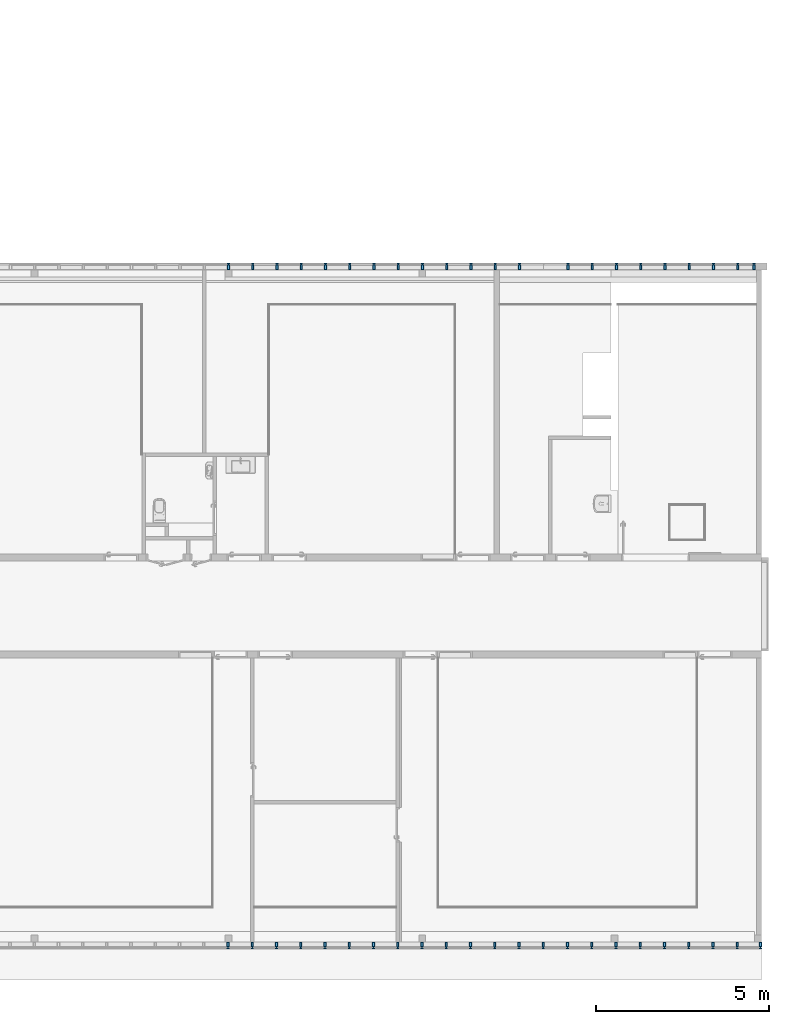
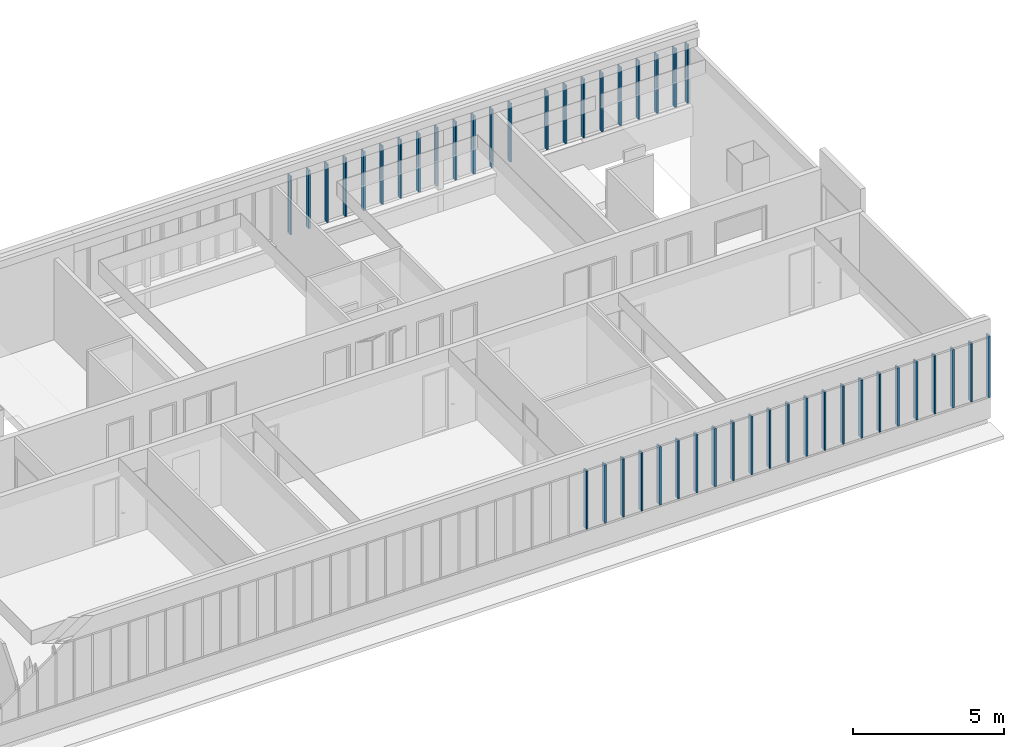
# One storey, part 7 of 87: 45 members, 2 elements without a shape of their own.
"""IFC2X3 building model written with IfcOpenShell, lengths in centimetres."""

from ifc_helpers import new_model, entity, si_unit, converted_unit, derived_unit, direction, frame, origin, place, context, subcontext, project, spatial, polyline, outline, extrude, source, transform, mapped, material, type_object, type_shapes, element, aggregate, save


model = new_model("IFC2X3")

# Units and contexts
model_context = context("Model", 3, precision=0.001, world=origin(), true_north=direction((6.12303176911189e-17, 1.0)))
body_context = subcontext(model_context, "Body", "Model", "MODEL_VIEW")
ifc_project = project(units=[si_unit("LENGTHUNIT", "METRE", prefix="CENTI"), si_unit("AREAUNIT", "SQUARE_METRE"), si_unit("VOLUMEUNIT", "CUBIC_METRE"), converted_unit("PLANEANGLEUNIT", "DEGREE", entity("IfcRatioMeasure", 0.0174532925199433), si_unit("PLANEANGLEUNIT", "RADIAN"), dimensions=[0, 0, 0, 0, 0, 0, 0]), si_unit("MASSUNIT", "GRAM", prefix="KILO"), derived_unit("MASSDENSITYUNIT", [(si_unit("MASSUNIT", "GRAM", prefix="KILO"), 1), (si_unit("LENGTHUNIT", "METRE"), -3)]), si_unit("TIMEUNIT", "SECOND"), si_unit("FREQUENCYUNIT", "HERTZ"), si_unit("THERMODYNAMICTEMPERATUREUNIT", "DEGREE_CELSIUS"), derived_unit("THERMALTRANSMITTANCEUNIT", [(si_unit("MASSUNIT", "GRAM", prefix="KILO"), 1), (si_unit("THERMODYNAMICTEMPERATUREUNIT", "KELVIN"), -1), (si_unit("TIMEUNIT", "SECOND"), -3)]), derived_unit("VOLUMETRICFLOWRATEUNIT", [(si_unit("LENGTHUNIT", "METRE"), 3), (si_unit("TIMEUNIT", "SECOND"), -1)]), si_unit("ELECTRICCURRENTUNIT", "AMPERE"), si_unit("ELECTRICVOLTAGEUNIT", "VOLT"), si_unit("POWERUNIT", "WATT"), si_unit("FORCEUNIT", "NEWTON", prefix="KILO"), si_unit("ILLUMINANCEUNIT", "LUX"), si_unit("LUMINOUSFLUXUNIT", "LUMEN"), si_unit("LUMINOUSINTENSITYUNIT", "CANDELA"), derived_unit("USERDEFINED", [(si_unit("MASSUNIT", "GRAM", prefix="KILO"), -1), (si_unit("LENGTHUNIT", "METRE"), -2), (si_unit("TIMEUNIT", "SECOND"), 3), (si_unit("LUMINOUSFLUXUNIT", "LUMEN"), 1)]), derived_unit("LINEARVELOCITYUNIT", [(si_unit("LENGTHUNIT", "METRE"), 1), (si_unit("TIMEUNIT", "SECOND"), -1)]), si_unit("PRESSUREUNIT", "PASCAL"), derived_unit("USERDEFINED", [(si_unit("LENGTHUNIT", "METRE"), -2), (si_unit("MASSUNIT", "GRAM", prefix="KILO"), 1), (si_unit("TIMEUNIT", "SECOND"), -2)])], contexts=[model_context])

# Site, building, storey
site_placement = place(None, frame((-2781.94577612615, 7442.24238424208, 0.0)))
site = spatial("IfcSite", under=ifc_project, at=site_placement, Name="Default", CompositionType="ELEMENT")
building_placement = place(site_placement, origin())
building = spatial("IfcBuilding", under=site, at=building_placement, CompositionType="ELEMENT")
storey_placement = place(building_placement, frame((0.0, 0.0, 774.0)))
storey = spatial("IfcBuildingStorey", under=building, at=storey_placement, Name="TR - N02 - ARCH", CompositionType="ELEMENT", Elevation=774.0)

# Curtain wall, members
curtain_wall_type = type_object("IfcCurtainWallType", Name="Mur-rideau:07 - mur rideau trame 70cm", PredefinedType="NOTDEFINED")
curtain_wall_1_placement = place(storey_placement, frame((0.0, 0.0, -774.0)))
curtain_wall_1 = element("IfcCurtainWall", 1, at=curtain_wall_1_placement, inside=storey, type_object=curtain_wall_type, Name="Mur-rideau:07 - mur rideau trame 70cm", ObjectType="Mur-rideau:07 - mur rideau trame 70cm")
ifc_material = material(Name="Aluminium")
member_type_1 = type_object("IfcMemberType", Name="150 x 25mm Détails", PredefinedType="MEMBER")
shared_shape_1 = source(origin(), body_context, "Body", "SweptSolid", [
    extrude(outline(polyline([(-5.66666666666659, -3.24999999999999), (-3.66666666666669, -3.24999999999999), (-3.66666666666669, -0.86874999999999), (-0.166666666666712, -0.86874999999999), (-0.166666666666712, -3.25000000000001), (13.3333333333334, -3.25000000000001), (13.3333333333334, 3.24999999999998), (-0.166666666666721, 3.24999999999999), (-0.166666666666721, 0.868749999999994), (-3.66666666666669, 0.868749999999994), (-3.66666666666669, 3.25), (-5.66666666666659, 3.25), (-5.66666666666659, -3.24999999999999)])), frame((0.0, -1.96666666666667, -236.0), z_axis=(0.0, 0.0, 1.0), x_axis=(0.0, -1.0, 0.0)), (0.0, 0.0, 1.0), 236.0),
])
type_shapes(member_type_1, [shared_shape_1])
member_1_placement = place(storey_placement, frame((-1950.749882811, -3046.51349958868, 90.0), z_axis=(0.0, 0.0, -1.0), x_axis=(1.0, 0.0, 0.0)))
member_1 = element("IfcMember", 2, at=member_1_placement, type_object=member_type_1, material=ifc_material, Name="Meneau rectangulaire:150 x 25mm Détails", ObjectType="Meneau rectangulaire:150 x 25mm Détails", context=body_context, shape_type="MappedRepresentation", body=[
    mapped(shared_shape_1, transform((0.0, 0.0, 0.0), scale=1.0)),
])
member_2_placement = place(storey_placement, frame((-1880.749882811, -3046.51349958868, 90.0), z_axis=(0.0, 0.0, -1.0), x_axis=(1.0, 0.0, 0.0)))
member_2 = element("IfcMember", 3, at=member_2_placement, type_object=member_type_1, material=ifc_material, Name="Meneau rectangulaire:150 x 25mm Détails", ObjectType="Meneau rectangulaire:150 x 25mm Détails", context=body_context, shape_type="MappedRepresentation", body=[
    mapped(shared_shape_1, transform((0.0, 0.0, 0.0), scale=1.0)),
])
member_3_placement = place(storey_placement, frame((-1810.749882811, -3046.51349958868, 90.0), z_axis=(0.0, 0.0, -1.0), x_axis=(1.0, 0.0, 0.0)))
member_3 = element("IfcMember", 4, at=member_3_placement, type_object=member_type_1, material=ifc_material, Name="Meneau rectangulaire:150 x 25mm Détails", ObjectType="Meneau rectangulaire:150 x 25mm Détails", context=body_context, shape_type="MappedRepresentation", body=[
    mapped(shared_shape_1, transform((0.0, 0.0, 0.0), scale=1.0)),
])
member_4_placement = place(storey_placement, frame((-1740.749882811, -3046.51349958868, 90.0), z_axis=(0.0, 0.0, -1.0), x_axis=(1.0, 0.0, 0.0)))
member_4 = element("IfcMember", 5, at=member_4_placement, type_object=member_type_1, material=ifc_material, Name="Meneau rectangulaire:150 x 25mm Détails", ObjectType="Meneau rectangulaire:150 x 25mm Détails", context=body_context, shape_type="MappedRepresentation", body=[
    mapped(shared_shape_1, transform((0.0, 0.0, 0.0), scale=1.0)),
])
member_5_placement = place(storey_placement, frame((-1670.749882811, -3046.51349958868, 90.0), z_axis=(0.0, 0.0, -1.0), x_axis=(1.0, 0.0, 0.0)))
member_5 = element("IfcMember", 6, at=member_5_placement, type_object=member_type_1, material=ifc_material, Name="Meneau rectangulaire:150 x 25mm Détails", ObjectType="Meneau rectangulaire:150 x 25mm Détails", context=body_context, shape_type="MappedRepresentation", body=[
    mapped(shared_shape_1, transform((0.0, 0.0, 0.0), scale=1.0)),
])
member_6_placement = place(storey_placement, frame((-1600.749882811, -3046.51349958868, 90.0), z_axis=(0.0, 0.0, -1.0), x_axis=(1.0, 0.0, 0.0)))
member_6 = element("IfcMember", 7, at=member_6_placement, type_object=member_type_1, material=ifc_material, Name="Meneau rectangulaire:150 x 25mm Détails", ObjectType="Meneau rectangulaire:150 x 25mm Détails", context=body_context, shape_type="MappedRepresentation", body=[
    mapped(shared_shape_1, transform((0.0, 0.0, 0.0), scale=1.0)),
])
member_7_placement = place(storey_placement, frame((-1530.749882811, -3046.51349958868, 90.0), z_axis=(0.0, 0.0, -1.0), x_axis=(1.0, 0.0, 0.0)))
member_7 = element("IfcMember", 8, at=member_7_placement, type_object=member_type_1, material=ifc_material, Name="Meneau rectangulaire:150 x 25mm Détails", ObjectType="Meneau rectangulaire:150 x 25mm Détails", context=body_context, shape_type="MappedRepresentation", body=[
    mapped(shared_shape_1, transform((0.0, 0.0, 0.0), scale=1.0)),
])
member_8_placement = place(storey_placement, frame((-1460.749882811, -3046.51349958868, 90.0), z_axis=(0.0, 0.0, -1.0), x_axis=(1.0, 0.0, 0.0)))
member_8 = element("IfcMember", 9, at=member_8_placement, type_object=member_type_1, material=ifc_material, Name="Meneau rectangulaire:150 x 25mm Détails", ObjectType="Meneau rectangulaire:150 x 25mm Détails", context=body_context, shape_type="MappedRepresentation", body=[
    mapped(shared_shape_1, transform((0.0, 0.0, 0.0), scale=1.0)),
])
member_9_placement = place(storey_placement, frame((-1390.749882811, -3046.51349958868, 90.0), z_axis=(0.0, 0.0, -1.0), x_axis=(1.0, 0.0, 0.0)))
member_9 = element("IfcMember", 10, at=member_9_placement, type_object=member_type_1, material=ifc_material, Name="Meneau rectangulaire:150 x 25mm Détails", ObjectType="Meneau rectangulaire:150 x 25mm Détails", context=body_context, shape_type="MappedRepresentation", body=[
    mapped(shared_shape_1, transform((0.0, 0.0, 0.0), scale=1.0)),
])
member_10_placement = place(storey_placement, frame((-1320.749882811, -3046.51349958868, 90.0), z_axis=(0.0, 0.0, -1.0), x_axis=(1.0, 0.0, 0.0)))
member_10 = element("IfcMember", 11, at=member_10_placement, type_object=member_type_1, material=ifc_material, Name="Meneau rectangulaire:150 x 25mm Détails", ObjectType="Meneau rectangulaire:150 x 25mm Détails", context=body_context, shape_type="MappedRepresentation", body=[
    mapped(shared_shape_1, transform((0.0, 0.0, 0.0), scale=1.0)),
])
member_11_placement = place(storey_placement, frame((-1250.749882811, -3046.51349958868, 90.0), z_axis=(0.0, 0.0, -1.0), x_axis=(1.0, 0.0, 0.0)))
member_11 = element("IfcMember", 12, at=member_11_placement, type_object=member_type_1, material=ifc_material, Name="Meneau rectangulaire:150 x 25mm Détails", ObjectType="Meneau rectangulaire:150 x 25mm Détails", context=body_context, shape_type="MappedRepresentation", body=[
    mapped(shared_shape_1, transform((0.0, 0.0, 0.0), scale=1.0)),
])
member_12_placement = place(storey_placement, frame((-1180.749882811, -3046.51349958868, 90.0), z_axis=(0.0, 0.0, -1.0), x_axis=(1.0, 0.0, 0.0)))
member_12 = element("IfcMember", 13, at=member_12_placement, type_object=member_type_1, material=ifc_material, Name="Meneau rectangulaire:150 x 25mm Détails", ObjectType="Meneau rectangulaire:150 x 25mm Détails", context=body_context, shape_type="MappedRepresentation", body=[
    mapped(shared_shape_1, transform((0.0, 0.0, 0.0), scale=1.0)),
])
member_13_placement = place(storey_placement, frame((-1110.749882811, -3046.51349958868, 90.0), z_axis=(0.0, 0.0, -1.0), x_axis=(1.0, 0.0, 0.0)))
member_13 = element("IfcMember", 14, at=member_13_placement, type_object=member_type_1, material=ifc_material, Name="Meneau rectangulaire:150 x 25mm Détails", ObjectType="Meneau rectangulaire:150 x 25mm Détails", context=body_context, shape_type="MappedRepresentation", body=[
    mapped(shared_shape_1, transform((0.0, 0.0, 0.0), scale=1.0)),
])
member_14_placement = place(storey_placement, frame((-1040.749882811, -3046.51349958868, 90.0), z_axis=(0.0, 0.0, -1.0), x_axis=(1.0, 0.0, 0.0)))
member_14 = element("IfcMember", 15, at=member_14_placement, type_object=member_type_1, material=ifc_material, Name="Meneau rectangulaire:150 x 25mm Détails", ObjectType="Meneau rectangulaire:150 x 25mm Détails", context=body_context, shape_type="MappedRepresentation", body=[
    mapped(shared_shape_1, transform((0.0, 0.0, 0.0), scale=1.0)),
])
member_15_placement = place(storey_placement, frame((-970.749882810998, -3046.51349958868, 90.0), z_axis=(0.0, 0.0, -1.0), x_axis=(1.0, 0.0, 0.0)))
member_15 = element("IfcMember", 16, at=member_15_placement, type_object=member_type_1, material=ifc_material, Name="Meneau rectangulaire:150 x 25mm Détails", ObjectType="Meneau rectangulaire:150 x 25mm Détails", context=body_context, shape_type="MappedRepresentation", body=[
    mapped(shared_shape_1, transform((0.0, 0.0, 0.0), scale=1.0)),
])
member_16_placement = place(storey_placement, frame((-900.749882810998, -3046.51349958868, 90.0), z_axis=(0.0, 0.0, -1.0), x_axis=(1.0, 0.0, 0.0)))
member_16 = element("IfcMember", 17, at=member_16_placement, type_object=member_type_1, material=ifc_material, Name="Meneau rectangulaire:150 x 25mm Détails", ObjectType="Meneau rectangulaire:150 x 25mm Détails", context=body_context, shape_type="MappedRepresentation", body=[
    mapped(shared_shape_1, transform((0.0, 0.0, 0.0), scale=1.0)),
])
member_17_placement = place(storey_placement, frame((-830.749882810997, -3046.51349958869, 90.0), z_axis=(0.0, 0.0, -1.0), x_axis=(1.0, 0.0, 0.0)))
member_17 = element("IfcMember", 18, at=member_17_placement, type_object=member_type_1, material=ifc_material, Name="Meneau rectangulaire:150 x 25mm Détails", ObjectType="Meneau rectangulaire:150 x 25mm Détails", context=body_context, shape_type="MappedRepresentation", body=[
    mapped(shared_shape_1, transform((0.0, 0.0, 0.0), scale=1.0)),
])
member_18_placement = place(storey_placement, frame((-760.749882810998, -3046.51349958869, 90.0), z_axis=(0.0, 0.0, -1.0), x_axis=(1.0, 0.0, 0.0)))
member_18 = element("IfcMember", 19, at=member_18_placement, type_object=member_type_1, material=ifc_material, Name="Meneau rectangulaire:150 x 25mm Détails", ObjectType="Meneau rectangulaire:150 x 25mm Détails", context=body_context, shape_type="MappedRepresentation", body=[
    mapped(shared_shape_1, transform((0.0, 0.0, 0.0), scale=1.0)),
])
member_19_placement = place(storey_placement, frame((-690.749882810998, -3046.51349958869, 90.0), z_axis=(0.0, 0.0, -1.0), x_axis=(1.0, 0.0, 0.0)))
member_19 = element("IfcMember", 20, at=member_19_placement, type_object=member_type_1, material=ifc_material, Name="Meneau rectangulaire:150 x 25mm Détails", ObjectType="Meneau rectangulaire:150 x 25mm Détails", context=body_context, shape_type="MappedRepresentation", body=[
    mapped(shared_shape_1, transform((0.0, 0.0, 0.0), scale=1.0)),
])
member_20_placement = place(storey_placement, frame((-620.749882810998, -3046.51349958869, 90.0), z_axis=(0.0, 0.0, -1.0), x_axis=(1.0, 0.0, 0.0)))
member_20 = element("IfcMember", 21, at=member_20_placement, type_object=member_type_1, material=ifc_material, Name="Meneau rectangulaire:150 x 25mm Détails", ObjectType="Meneau rectangulaire:150 x 25mm Détails", context=body_context, shape_type="MappedRepresentation", body=[
    mapped(shared_shape_1, transform((0.0, 0.0, 0.0), scale=1.0)),
])
member_21_placement = place(storey_placement, frame((-550.749882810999, -3046.51349958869, 90.0), z_axis=(0.0, 0.0, -1.0), x_axis=(1.0, 0.0, 0.0)))
member_21 = element("IfcMember", 22, at=member_21_placement, type_object=member_type_1, material=ifc_material, Name="Meneau rectangulaire:150 x 25mm Détails", ObjectType="Meneau rectangulaire:150 x 25mm Détails", context=body_context, shape_type="MappedRepresentation", body=[
    mapped(shared_shape_1, transform((0.0, 0.0, 0.0), scale=1.0)),
])
member_22_placement = place(storey_placement, frame((-480.749882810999, -3046.51349958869, 90.0), z_axis=(0.0, 0.0, -1.0), x_axis=(1.0, 0.0, 0.0)))
member_22 = element("IfcMember", 23, at=member_22_placement, type_object=member_type_1, material=ifc_material, Name="Meneau rectangulaire:150 x 25mm Détails", ObjectType="Meneau rectangulaire:150 x 25mm Détails", context=body_context, shape_type="MappedRepresentation", body=[
    mapped(shared_shape_1, transform((0.0, 0.0, 0.0), scale=1.0)),
])
member_type_2 = type_object("IfcMemberType", Name="150 x 25mm Détails", PredefinedType="MEMBER")
shared_shape_2 = source(origin(), body_context, "Body", "SweptSolid", [
    extrude(outline(polyline([(-5.6666666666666, -3.24999999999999), (-3.66666666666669, -3.24999999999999), (-3.66666666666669, -0.868749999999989), (-0.166666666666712, -0.868749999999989), (-0.166666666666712, -3.25000000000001), (13.3333333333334, -3.25000000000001), (13.3333333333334, 3.24999999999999), (-0.16666666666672, 3.24999999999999), (-0.16666666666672, 0.868749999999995), (-3.66666666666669, 0.868749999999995), (-3.66666666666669, 3.25), (-5.6666666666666, 3.25), (-5.6666666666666, -3.24999999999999)])), frame((-3.24999999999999, -1.96666666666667, -249.0), z_axis=(0.0, 0.0, 1.0), x_axis=(0.0, -1.0, 0.0)), (0.0, 0.0, 1.0), 248.999999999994),
])
type_shapes(member_type_2, [shared_shape_2])
member_23_placement = place(storey_placement, frame((-409.999882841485, -3046.51349958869, 83.5000000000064), z_axis=(0.0, 0.0, -1.0), x_axis=(1.0, 0.0, 0.0)))
member_23 = element("IfcMember", 24, at=member_23_placement, type_object=member_type_2, material=ifc_material, Name="Meneau rectangulaire:150 x 25mm Détails", ObjectType="Meneau rectangulaire:150 x 25mm Détails", context=body_context, shape_type="MappedRepresentation", body=[
    mapped(shared_shape_2, transform((0.0, 0.0, 0.0), scale=1.0)),
])
aggregate(curtain_wall_1, [member_23, member_1, member_2, member_3, member_4, member_5, member_6, member_7, member_8, member_9, member_10, member_11, member_12, member_13, member_14, member_15, member_16, member_17, member_18, member_19, member_20, member_21, member_22])

curtain_wall_2_placement = place(storey_placement, frame((0.0, 0.0, -774.0)))
curtain_wall_2 = element("IfcCurtainWall", 25, at=curtain_wall_2_placement, inside=storey, type_object=curtain_wall_type, Name="Mur-rideau:07 - mur rideau trame 70cm", ObjectType="Mur-rideau:07 - mur rideau trame 70cm")
member_type_3 = type_object("IfcMemberType", Name="150 x 25mm Détails", PredefinedType="MEMBER")
shared_shape_3 = source(origin(), body_context, "Body", "SweptSolid", [
    extrude(outline(polyline([(-13.3333333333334, -3.25000000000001), (0.166666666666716, -3.25000000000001), (0.166666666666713, -0.86874999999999), (3.66666666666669, -0.86874999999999), (3.66666666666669, -3.24999999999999), (5.66666666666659, -3.24999999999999), (5.66666666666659, 3.25), (3.66666666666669, 3.25), (3.66666666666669, 0.868749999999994), (0.166666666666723, 0.868749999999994), (0.166666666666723, 3.25000000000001), (-13.3333333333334, 3.24999999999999), (-13.3333333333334, -3.25000000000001)])), frame((-3.24999999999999, 1.96666666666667, -236.0), z_axis=(0.0, 0.0, 1.0), x_axis=(0.0, -1.0, 0.0)), (0.0, 0.0, 1.0), 236.0),
])
type_shapes(member_type_3, [shared_shape_3])
member_24_placement = place(storey_placement, frame((-428.924882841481, -1073.79999990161, 90.0), z_axis=(0.0, 0.0, -1.0), x_axis=(1.0, 0.0, 0.0)))
member_24 = element("IfcMember", 26, at=member_24_placement, type_object=member_type_3, material=ifc_material, Name="Meneau rectangulaire:150 x 25mm Détails", ObjectType="Meneau rectangulaire:150 x 25mm Détails", context=body_context, shape_type="MappedRepresentation", body=[
    mapped(shared_shape_3, transform((0.0, 0.0, 0.0), scale=1.0)),
])
member_type_4 = type_object("IfcMemberType", Name="150 x 25mm Détails", PredefinedType="MEMBER")
shared_shape_4 = source(origin(), body_context, "Body", "SweptSolid", [
    extrude(outline(polyline([(-13.3333333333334, -3.25000000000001), (0.166666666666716, -3.25000000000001), (0.166666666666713, -0.86874999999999), (3.66666666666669, -0.86874999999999), (3.66666666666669, -3.24999999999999), (5.66666666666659, -3.24999999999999), (5.66666666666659, 3.25), (3.66666666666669, 3.25), (3.66666666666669, 0.868749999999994), (0.166666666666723, 0.868749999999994), (0.166666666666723, 3.25000000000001), (-13.3333333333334, 3.24999999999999), (-13.3333333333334, -3.25000000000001)])), frame((0.0, 1.96666666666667, -236.0), z_axis=(0.0, 0.0, 1.0), x_axis=(0.0, -1.0, 0.0)), (0.0, 0.0, 1.0), 236.0),
])
type_shapes(member_type_4, [shared_shape_4])
member_25_placement = place(storey_placement, frame((-1949.29988284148, -1073.7999999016, 90.0), z_axis=(0.0, 0.0, -1.0), x_axis=(1.0, 0.0, 0.0)))
member_25 = element("IfcMember", 27, at=member_25_placement, type_object=member_type_4, material=ifc_material, Name="Meneau rectangulaire:150 x 25mm Détails", ObjectType="Meneau rectangulaire:150 x 25mm Détails", context=body_context, shape_type="MappedRepresentation", body=[
    mapped(shared_shape_4, transform((0.0, 0.0, 0.0), scale=1.0)),
])
member_26_placement = place(storey_placement, frame((-1879.29988284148, -1073.7999999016, 90.0), z_axis=(0.0, 0.0, -1.0), x_axis=(1.0, 0.0, 0.0)))
member_26 = element("IfcMember", 28, at=member_26_placement, type_object=member_type_4, material=ifc_material, Name="Meneau rectangulaire:150 x 25mm Détails", ObjectType="Meneau rectangulaire:150 x 25mm Détails", context=body_context, shape_type="MappedRepresentation", body=[
    mapped(shared_shape_4, transform((0.0, 0.0, 0.0), scale=1.0)),
])
member_27_placement = place(storey_placement, frame((-1809.29988284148, -1073.7999999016, 90.0), z_axis=(0.0, 0.0, -1.0), x_axis=(1.0, 0.0, 0.0)))
member_27 = element("IfcMember", 29, at=member_27_placement, type_object=member_type_4, material=ifc_material, Name="Meneau rectangulaire:150 x 25mm Détails", ObjectType="Meneau rectangulaire:150 x 25mm Détails", context=body_context, shape_type="MappedRepresentation", body=[
    mapped(shared_shape_4, transform((0.0, 0.0, 0.0), scale=1.0)),
])
member_28_placement = place(storey_placement, frame((-1739.29988284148, -1073.7999999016, 90.0), z_axis=(0.0, 0.0, -1.0), x_axis=(1.0, 0.0, 0.0)))
member_28 = element("IfcMember", 30, at=member_28_placement, type_object=member_type_4, material=ifc_material, Name="Meneau rectangulaire:150 x 25mm Détails", ObjectType="Meneau rectangulaire:150 x 25mm Détails", context=body_context, shape_type="MappedRepresentation", body=[
    mapped(shared_shape_4, transform((0.0, 0.0, 0.0), scale=1.0)),
])
member_29_placement = place(storey_placement, frame((-1669.29988284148, -1073.7999999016, 90.0), z_axis=(0.0, 0.0, -1.0), x_axis=(1.0, 0.0, 0.0)))
member_29 = element("IfcMember", 31, at=member_29_placement, type_object=member_type_4, material=ifc_material, Name="Meneau rectangulaire:150 x 25mm Détails", ObjectType="Meneau rectangulaire:150 x 25mm Détails", context=body_context, shape_type="MappedRepresentation", body=[
    mapped(shared_shape_4, transform((0.0, 0.0, 0.0), scale=1.0)),
])
member_30_placement = place(storey_placement, frame((-1599.29988284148, -1073.7999999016, 90.0), z_axis=(0.0, 0.0, -1.0), x_axis=(1.0, 0.0, 0.0)))
member_30 = element("IfcMember", 32, at=member_30_placement, type_object=member_type_4, material=ifc_material, Name="Meneau rectangulaire:150 x 25mm Détails", ObjectType="Meneau rectangulaire:150 x 25mm Détails", context=body_context, shape_type="MappedRepresentation", body=[
    mapped(shared_shape_4, transform((0.0, 0.0, 0.0), scale=1.0)),
])
member_31_placement = place(storey_placement, frame((-1529.29988284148, -1073.7999999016, 90.0), z_axis=(0.0, 0.0, -1.0), x_axis=(1.0, 0.0, 0.0)))
member_31 = element("IfcMember", 33, at=member_31_placement, type_object=member_type_4, material=ifc_material, Name="Meneau rectangulaire:150 x 25mm Détails", ObjectType="Meneau rectangulaire:150 x 25mm Détails", context=body_context, shape_type="MappedRepresentation", body=[
    mapped(shared_shape_4, transform((0.0, 0.0, 0.0), scale=1.0)),
])
member_32_placement = place(storey_placement, frame((-1459.29988284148, -1073.7999999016, 90.0), z_axis=(0.0, 0.0, -1.0), x_axis=(1.0, 0.0, 0.0)))
member_32 = element("IfcMember", 34, at=member_32_placement, type_object=member_type_4, material=ifc_material, Name="Meneau rectangulaire:150 x 25mm Détails", ObjectType="Meneau rectangulaire:150 x 25mm Détails", context=body_context, shape_type="MappedRepresentation", body=[
    mapped(shared_shape_4, transform((0.0, 0.0, 0.0), scale=1.0)),
])
member_33_placement = place(storey_placement, frame((-1389.29988284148, -1073.7999999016, 90.0), z_axis=(0.0, 0.0, -1.0), x_axis=(1.0, 0.0, 0.0)))
member_33 = element("IfcMember", 35, at=member_33_placement, type_object=member_type_4, material=ifc_material, Name="Meneau rectangulaire:150 x 25mm Détails", ObjectType="Meneau rectangulaire:150 x 25mm Détails", context=body_context, shape_type="MappedRepresentation", body=[
    mapped(shared_shape_4, transform((0.0, 0.0, 0.0), scale=1.0)),
])
member_34_placement = place(storey_placement, frame((-1319.29988284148, -1073.7999999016, 90.0), z_axis=(0.0, 0.0, -1.0), x_axis=(1.0, 0.0, 0.0)))
member_34 = element("IfcMember", 36, at=member_34_placement, type_object=member_type_4, material=ifc_material, Name="Meneau rectangulaire:150 x 25mm Détails", ObjectType="Meneau rectangulaire:150 x 25mm Détails", context=body_context, shape_type="MappedRepresentation", body=[
    mapped(shared_shape_4, transform((0.0, 0.0, 0.0), scale=1.0)),
])
member_35_placement = place(storey_placement, frame((-1249.29988284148, -1073.7999999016, 90.0), z_axis=(0.0, 0.0, -1.0), x_axis=(1.0, 0.0, 0.0)))
member_35 = element("IfcMember", 37, at=member_35_placement, type_object=member_type_4, material=ifc_material, Name="Meneau rectangulaire:150 x 25mm Détails", ObjectType="Meneau rectangulaire:150 x 25mm Détails", context=body_context, shape_type="MappedRepresentation", body=[
    mapped(shared_shape_4, transform((0.0, 0.0, 0.0), scale=1.0)),
])
member_36_placement = place(storey_placement, frame((-1179.29988284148, -1073.7999999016, 90.0), z_axis=(0.0, 0.0, -1.0), x_axis=(1.0, 0.0, 0.0)))
member_36 = element("IfcMember", 38, at=member_36_placement, type_object=member_type_4, material=ifc_material, Name="Meneau rectangulaire:150 x 25mm Détails", ObjectType="Meneau rectangulaire:150 x 25mm Détails", context=body_context, shape_type="MappedRepresentation", body=[
    mapped(shared_shape_4, transform((0.0, 0.0, 0.0), scale=1.0)),
])
member_37_placement = place(storey_placement, frame((-1109.29988284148, -1073.7999999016, 90.0), z_axis=(0.0, 0.0, -1.0), x_axis=(1.0, 0.0, 0.0)))
member_37 = element("IfcMember", 39, at=member_37_placement, type_object=member_type_4, material=ifc_material, Name="Meneau rectangulaire:150 x 25mm Détails", ObjectType="Meneau rectangulaire:150 x 25mm Détails", context=body_context, shape_type="MappedRepresentation", body=[
    mapped(shared_shape_4, transform((0.0, 0.0, 0.0), scale=1.0)),
])
member_38_placement = place(storey_placement, frame((-969.29988284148, -1073.7999999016, 90.0), z_axis=(0.0, 0.0, -1.0), x_axis=(1.0, 0.0, 0.0)))
member_38 = element("IfcMember", 40, at=member_38_placement, type_object=member_type_4, material=ifc_material, Name="Meneau rectangulaire:150 x 25mm Détails", ObjectType="Meneau rectangulaire:150 x 25mm Détails", context=body_context, shape_type="MappedRepresentation", body=[
    mapped(shared_shape_4, transform((0.0, 0.0, 0.0), scale=1.0)),
])
member_39_placement = place(storey_placement, frame((-899.29988284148, -1073.7999999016, 90.0), z_axis=(0.0, 0.0, -1.0), x_axis=(1.0, 0.0, 0.0)))
member_39 = element("IfcMember", 41, at=member_39_placement, type_object=member_type_4, material=ifc_material, Name="Meneau rectangulaire:150 x 25mm Détails", ObjectType="Meneau rectangulaire:150 x 25mm Détails", context=body_context, shape_type="MappedRepresentation", body=[
    mapped(shared_shape_4, transform((0.0, 0.0, 0.0), scale=1.0)),
])
member_40_placement = place(storey_placement, frame((-829.29988284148, -1073.79999990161, 90.0), z_axis=(0.0, 0.0, -1.0), x_axis=(1.0, 0.0, 0.0)))
member_40 = element("IfcMember", 42, at=member_40_placement, type_object=member_type_4, material=ifc_material, Name="Meneau rectangulaire:150 x 25mm Détails", ObjectType="Meneau rectangulaire:150 x 25mm Détails", context=body_context, shape_type="MappedRepresentation", body=[
    mapped(shared_shape_4, transform((0.0, 0.0, 0.0), scale=1.0)),
])
member_41_placement = place(storey_placement, frame((-759.299882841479, -1073.79999990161, 90.0), z_axis=(0.0, 0.0, -1.0), x_axis=(1.0, 0.0, 0.0)))
member_41 = element("IfcMember", 43, at=member_41_placement, type_object=member_type_4, material=ifc_material, Name="Meneau rectangulaire:150 x 25mm Détails", ObjectType="Meneau rectangulaire:150 x 25mm Détails", context=body_context, shape_type="MappedRepresentation", body=[
    mapped(shared_shape_4, transform((0.0, 0.0, 0.0), scale=1.0)),
])
member_42_placement = place(storey_placement, frame((-689.299882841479, -1073.79999990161, 90.0), z_axis=(0.0, 0.0, -1.0), x_axis=(1.0, 0.0, 0.0)))
member_42 = element("IfcMember", 44, at=member_42_placement, type_object=member_type_4, material=ifc_material, Name="Meneau rectangulaire:150 x 25mm Détails", ObjectType="Meneau rectangulaire:150 x 25mm Détails", context=body_context, shape_type="MappedRepresentation", body=[
    mapped(shared_shape_4, transform((0.0, 0.0, 0.0), scale=1.0)),
])
member_43_placement = place(storey_placement, frame((-619.299882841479, -1073.79999990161, 90.0), z_axis=(0.0, 0.0, -1.0), x_axis=(1.0, 0.0, 0.0)))
member_43 = element("IfcMember", 45, at=member_43_placement, type_object=member_type_4, material=ifc_material, Name="Meneau rectangulaire:150 x 25mm Détails", ObjectType="Meneau rectangulaire:150 x 25mm Détails", context=body_context, shape_type="MappedRepresentation", body=[
    mapped(shared_shape_4, transform((0.0, 0.0, 0.0), scale=1.0)),
])
member_44_placement = place(storey_placement, frame((-549.299882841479, -1073.79999990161, 90.0), z_axis=(0.0, 0.0, -1.0), x_axis=(1.0, 0.0, 0.0)))
member_44 = element("IfcMember", 46, at=member_44_placement, type_object=member_type_4, material=ifc_material, Name="Meneau rectangulaire:150 x 25mm Détails", ObjectType="Meneau rectangulaire:150 x 25mm Détails", context=body_context, shape_type="MappedRepresentation", body=[
    mapped(shared_shape_4, transform((0.0, 0.0, 0.0), scale=1.0)),
])
member_45_placement = place(storey_placement, frame((-479.299882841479, -1073.79999990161, 90.0), z_axis=(0.0, 0.0, -1.0), x_axis=(1.0, 0.0, 0.0)))
member_45 = element("IfcMember", 47, at=member_45_placement, type_object=member_type_4, material=ifc_material, Name="Meneau rectangulaire:150 x 25mm Détails", ObjectType="Meneau rectangulaire:150 x 25mm Détails", context=body_context, shape_type="MappedRepresentation", body=[
    mapped(shared_shape_4, transform((0.0, 0.0, 0.0), scale=1.0)),
])
aggregate(curtain_wall_2, [member_24, member_25, member_26, member_27, member_28, member_29, member_30, member_31, member_32, member_33, member_34, member_35, member_36, member_37, member_38, member_39, member_40, member_41, member_42, member_43, member_44, member_45])

save(model, "model.ifc")
